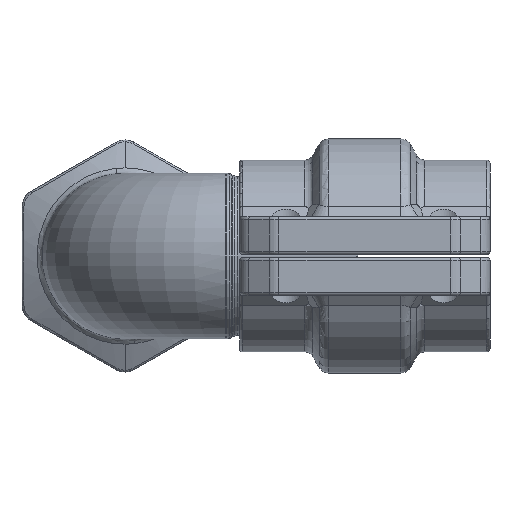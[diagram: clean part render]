
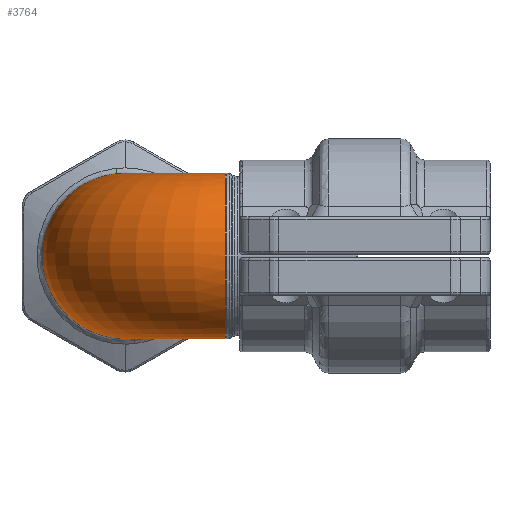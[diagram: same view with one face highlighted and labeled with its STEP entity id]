
A CAD part, left-side view. The second image highlights one B-rep face of the part: STEP entity #3764.
In plain terms, the highlighted toroidal (fillet/blend) face has major radius 31.789 mm and minor radius 26.256 mm.
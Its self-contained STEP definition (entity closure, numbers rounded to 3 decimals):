
#573=CARTESIAN_POINT('',(30.706,2.721,26.113));
#856=CARTESIAN_POINT('',(31.789,-31.789,-26.256));
#857=DIRECTION('',(0.,0.,-1.));
#858=DIRECTION('',(-1.,0.,0.));
#859=AXIS2_PLACEMENT_3D('',#856,#857,#858);
#872=CARTESIAN_POINT('',(31.789,-31.789,26.256));
#873=DIRECTION('',(0.,0.,-1.));
#874=DIRECTION('',(-1.,0.,0.));
#875=AXIS2_PLACEMENT_3D('',#872,#873,#874);
#924=CARTESIAN_POINT('',(30.697,0.004,26.256));
#925=CARTESIAN_POINT('',(30.697,0.049,26.256));
#926=CARTESIAN_POINT('',(30.7,0.953,26.253));
#927=CARTESIAN_POINT('',(30.703,1.862,26.203));
#928=CARTESIAN_POINT('',(30.706,2.722,26.113));
#933=CARTESIAN_POINT('',(0.,-31.789,0.));
#934=DIRECTION('',(0.,1.,0.));
#935=DIRECTION('',(0.,0.,-1.));
#936=AXIS2_PLACEMENT_3D('',#933,#934,#935);
#941=CARTESIAN_POINT('',(30.706,2.721,26.113));
#942=CARTESIAN_POINT('',(30.709,3.581,26.023));
#943=CARTESIAN_POINT('',(30.713,5.291,25.757));
#944=CARTESIAN_POINT('',(30.719,7.773,25.118));
#945=CARTESIAN_POINT('',(30.724,10.204,24.232));
#946=CARTESIAN_POINT('',(30.73,13.327,22.73));
#947=CARTESIAN_POINT('',(30.736,16.869,20.331));
#948=CARTESIAN_POINT('',(30.74,19.934,17.227));
#949=CARTESIAN_POINT('',(30.742,21.951,14.467));
#950=CARTESIAN_POINT('',(30.743,23.265,12.243));
#951=CARTESIAN_POINT('',(30.745,24.359,9.886));
#952=CARTESIAN_POINT('',(30.745,25.21,7.455));
#953=CARTESIAN_POINT('',(30.746,25.818,4.953));
#954=CARTESIAN_POINT('',(30.746,26.181,2.38));
#955=CARTESIAN_POINT('',(30.747,26.288,-0.202));
#956=CARTESIAN_POINT('',(30.746,26.096,-3.614));
#957=CARTESIAN_POINT('',(30.745,25.212,-7.886));
#958=CARTESIAN_POINT('',(30.743,23.209,-12.616));
#959=CARTESIAN_POINT('',(30.741,20.759,-16.222));
#960=CARTESIAN_POINT('',(30.738,18.445,-18.735));
#961=CARTESIAN_POINT('',(30.735,16.509,-20.462));
#962=CARTESIAN_POINT('',(30.732,14.411,-21.991));
#963=CARTESIAN_POINT('',(30.728,12.2,-23.29));
#964=CARTESIAN_POINT('',(30.724,9.854,-24.377));
#965=CARTESIAN_POINT('',(30.717,6.581,-25.517));
#966=CARTESIAN_POINT('',(30.708,3.289,-26.142));
#967=CARTESIAN_POINT('',(30.7,0.772,-26.256));
#968=CARTESIAN_POINT('',(30.697,-0.018,
-26.256));
#2095=CARTESIAN_POINT('',(0.,-31.789,-26.256));
#2096=VERTEX_POINT('',#2095);
#2097=CARTESIAN_POINT('',(0.,-31.789,26.256));
#2098=VERTEX_POINT('',#2097);
#2099=CARTESIAN_POINT('',(30.697,-0.019,
26.256));
#2100=VERTEX_POINT('',#2099);
#2101=CARTESIAN_POINT('',(30.697,-0.019,
-26.256));
#2102=VERTEX_POINT('',#2101);
#2132=VERTEX_POINT('',#573);
#3751=CARTESIAN_POINT('',(31.789,-31.789,0.));
#3752=DIRECTION('',(0.,0.,1.));
#3753=DIRECTION('',(-1.,0.,0.));
#3754=AXIS2_PLACEMENT_3D('',#3751,#3752,#3753);
#3755=TOROIDAL_SURFACE('',#3754,31.789,26.256);
#3756=ORIENTED_EDGE('',*,*,#3225,.F.);
#3757=ORIENTED_EDGE('',*,*,#3745,.F.);
#3759=ORIENTED_EDGE('',*,*,#3758,.F.);
#3760=ORIENTED_EDGE('',*,*,#3741,.T.);
#3761=ORIENTED_EDGE('',*,*,#2951,.F.);
#3762=EDGE_LOOP('',(#3756,#3757,#3759,#3760,#3761));
#3763=FACE_OUTER_BOUND('',#3762,.F.);
#860=CIRCLE('',#859,31.789);
#876=CIRCLE('',#875,31.789);
#929=B_SPLINE_CURVE_WITH_KNOTS('',3,(#924,#925,#926,#927,#928),.UNSPECIFIED.,
.F.,.F.,(4,1,4),(0.,0.05,1.),.UNSPECIFIED.);
#937=CIRCLE('',#936,26.256);
#969=B_SPLINE_CURVE_WITH_KNOTS('',3,(#941,#942,#943,#944,#945,#946,#947,#948,
#949,#950,#951,#952,#953,#954,#955,#956,#957,#958,#959,#960,#961,#962,#963,#964,
#965,#966,#967,#968),.UNSPECIFIED.,.F.,.F.,(4,1,1,1,1,1,1,1,1,1,1,1,1,1,1,1,1,1,
1,1,1,1,1,1,1,4),(0.,0.032,0.065,0.097,
0.129,0.194,0.259,0.291,
0.323,0.356,0.388,0.421,
0.453,0.485,0.518,0.582,
0.647,0.712,0.744,0.776,
0.809,0.841,0.873,0.906,
0.97,1.),.UNSPECIFIED.);
#2951=EDGE_CURVE('',#2132,#2102,#969,.T.);
#3225=EDGE_CURVE('',#2100,#2132,#929,.T.);
#3741=EDGE_CURVE('',#2096,#2102,#860,.T.);
#3745=EDGE_CURVE('',#2098,#2100,#876,.T.);
#3758=EDGE_CURVE('',#2096,#2098,#937,.T.);
#3764=ADVANCED_FACE('',(#3763),#3755,.T.);
